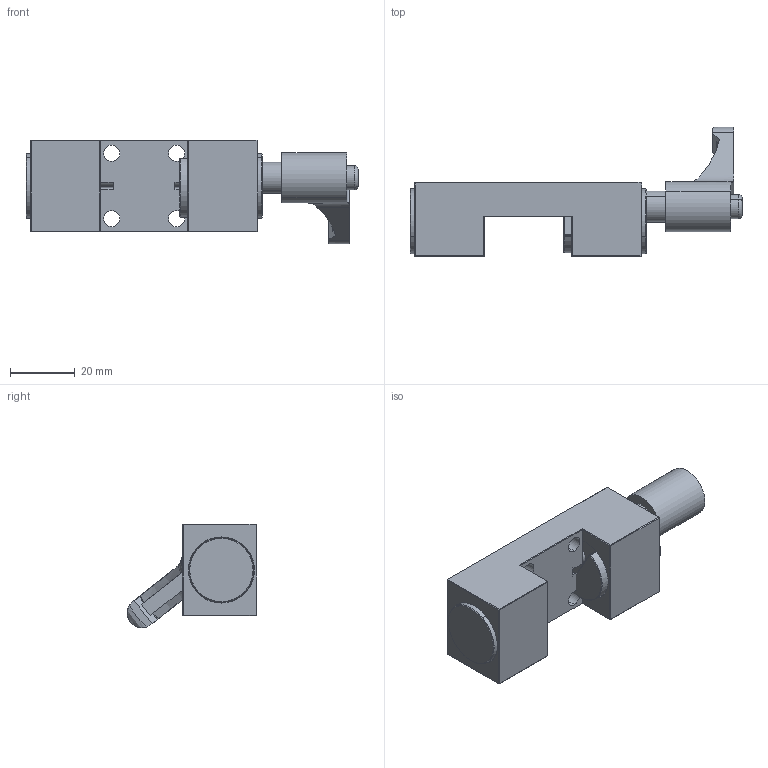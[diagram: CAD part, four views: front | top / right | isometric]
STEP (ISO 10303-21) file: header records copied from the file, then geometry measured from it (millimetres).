
FILE_DESCRIPTION (( 'STEP AP214' ), '1' );
FILE_NAME ('2.9003 Lukitusyksikkö 25.STEP', '2025-09-23T06:51:14', ( '' ), ( '' ), 'SwSTEP 2.0', 'SolidWorks 2025', '' );
FILE_SCHEMA (( 'AUTOMOTIVE_DESIGN' ));
Length unit declared in the file: millimetre
Products named in the file (1): 2.9003 Lukitusyksikkö 25
Bounding box: 102.4 x 39.93 x 31.91 mm (x, y, z)
Surface area: 20004.8 mm2 (no closed solid volume)
Topology: 0 solids, 5 shells, 177 faces, 409 edges, 243 vertices
Faces by surface type: plane 81, cylinder 51, cone 38, torus 6, bspline 1
Entity records: 7067 total; most frequent: CARTESIAN_POINT 1068, DIRECTION 884, ORIENTED_EDGE 810, EDGE_CURVE 407, AXIS2_PLACEMENT_3D 329, VERTEX_POINT 243, VECTOR 226, LINE 226
